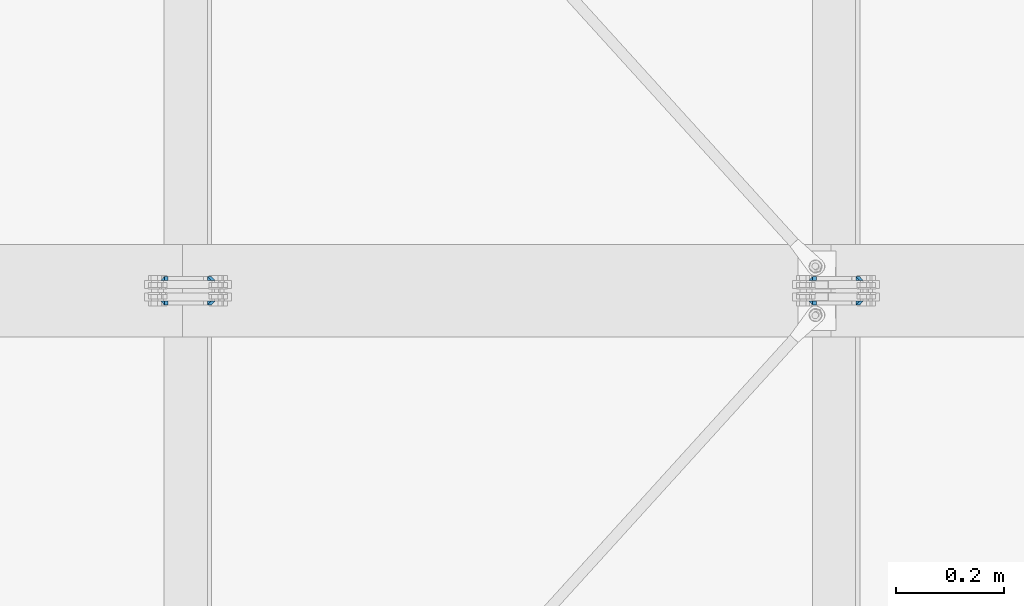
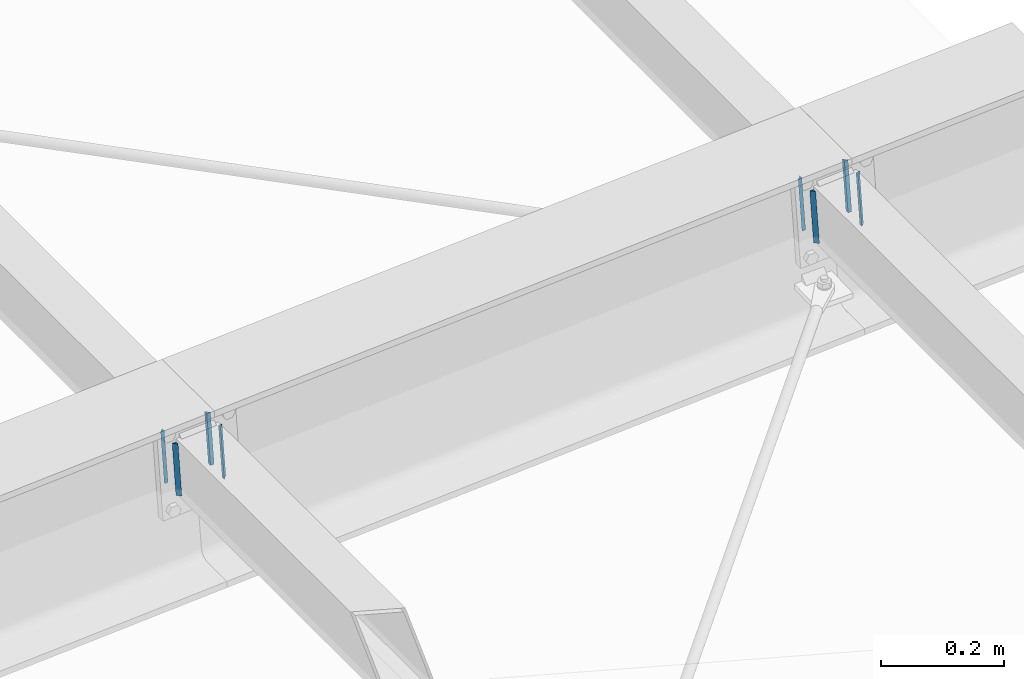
# One storey, part 21 of 72: 16 fasteners.
"""IFC4 building model written with IfcOpenShell, lengths in metres."""

from ifc_helpers import new_model, si_unit, frame, origin_with_axes, place, context, project, spatial, polyline, outline, extrude, type_object, element, save


model = new_model("IFC4")

# Units and contexts
model_context = context("Model", 3, precision=1e-05, world=origin_with_axes())
ifc_project = project(units=[si_unit("LENGTHUNIT", "METRE"), si_unit("AREAUNIT", "SQUARE_METRE"), si_unit("VOLUMEUNIT", "CUBIC_METRE"), si_unit("MASSUNIT", "GRAM", prefix="KILO"), si_unit("TIMEUNIT", "SECOND"), si_unit("PLANEANGLEUNIT", "RADIAN"), si_unit("SOLIDANGLEUNIT", "STERADIAN"), si_unit("THERMODYNAMICTEMPERATUREUNIT", "DEGREE_CELSIUS")], contexts=[model_context])

# Site, building, storey
placement_1 = place(None, origin_with_axes())
site = spatial("IfcSite", under=ifc_project, at=placement_1, Name="Italia", CompositionType="ELEMENT")
building = spatial("IfcBuilding", under=site, at=placement_1, Name="Pensilina", CompositionType="ELEMENT")
storey = spatial("IfcBuildingStorey", under=building, at=placement_1, Name="Storey 0", CompositionType="ELEMENT", Elevation=0.0)

# Fasteners
fastener_type_1 = type_object("IfcFastenerType", Name="Collegamento 0504_0503", PredefinedType="WELD")
placement_2 = place(placement_1, origin_with_axes())
fastener_1_placement = place(placement_2, origin_with_axes())
element("IfcFastener", 1, at=fastener_1_placement, inside=storey, type_object=fastener_type_1, Name="Collegamento 0504_0503", context=model_context, shape_type="SweptSolid", body=[
    extrude(outline(polyline([(0.0, 0.0, 0.0), (-0.00717354, 0.00695801, 0.0), (0.0, 0.00695801, 0.0), (0.0, 0.0, 0.0)])), frame((4.56223, 15.8211, 3.9931), z_axis=(0.067318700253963, 0.0, -0.997731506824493), x_axis=(0.0, 1.0, 0.0)), (0.0, 0.0, 1.0), 0.1061),
])
fastener_type_2 = type_object("IfcFastenerType", Name="Collegamento 0504_0503", PredefinedType="WELD")
fastener_2_placement = place(placement_2, origin_with_axes())
element("IfcFastener", 2, at=fastener_2_placement, inside=storey, type_object=fastener_type_2, Name="Collegamento 0504_0503", context=model_context, shape_type="SweptSolid", body=[
    extrude(outline(polyline([(0.0, 0.0, 0.0), (0.00717354, -0.00695801, 0.0), (0.0, -0.00695801, 0.0), (0.0, 0.0, 0.0)])), frame((4.66298, 15.8211, 3.89356), z_axis=(-0.067318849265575, 0.0, 0.997731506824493), x_axis=(0.0, -1.0, 0.0)), (0.0, 0.0, 1.0), 0.1061),
])
fastener_type_3 = type_object("IfcFastenerType", Name="Collegamento 0504_0503", PredefinedType="WELD")
fastener_3_placement = place(placement_2, origin_with_axes())
element("IfcFastener", 3, at=fastener_3_placement, inside=storey, type_object=fastener_type_3, Name="Collegamento 0504_0503", context=model_context, shape_type="SweptSolid", body=[
    extrude(outline(polyline([(0.0, 0.0, 0.0), (-0.00717354, 0.00695801, 0.0), (0.0, 0.00695801, 0.0), (0.0, 0.0, 0.0)])), frame((4.56223, 15.8211, 3.9931), z_axis=(0.067318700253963, 0.0, -0.997731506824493), x_axis=(0.0, 1.0, 0.0)), (0.0, 0.0, 1.0), 0.1061),
])
fastener_type_4 = type_object("IfcFastenerType", Name="Collegamento 0504_0503", PredefinedType="WELD")
fastener_4_placement = place(placement_2, origin_with_axes())
element("IfcFastener", 4, at=fastener_4_placement, inside=storey, type_object=fastener_type_4, Name="Collegamento 0504_0503", context=model_context, shape_type="SweptSolid", body=[
    extrude(outline(polyline([(0.0, 0.0, 0.0), (0.00717354, -0.00695801, 0.0), (0.0, -0.00695801, 0.0), (0.0, 0.0, 0.0)])), frame((4.66298, 15.8211, 3.89356), z_axis=(-0.067318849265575, 0.0, 0.997731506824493), x_axis=(0.0, -1.0, 0.0)), (0.0, 0.0, 1.0), 0.1061),
])
fastener_type_5 = type_object("IfcFastenerType", Name="Collegamento 0504_0505", PredefinedType="WELD")
fastener_5_placement = place(placement_2, origin_with_axes())
element("IfcFastener", 5, at=fastener_5_placement, inside=storey, type_object=fastener_type_5, Name="Collegamento 0504_0505", context=model_context, shape_type="SweptSolid", body=[
    extrude(outline(polyline([(0.0, 0.0, 0.0), (-0.00717354, 0.00695801, 0.0), (0.0, 0.00695801, 0.0), (0.0, 0.0, 0.0)])), frame((4.56938, 15.8589, 3.88724), z_axis=(-0.067318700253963, 0.0, 0.997731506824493), x_axis=(0.0, -1.0, 0.0)), (0.0, 0.0, 1.0), 0.1061),
])
fastener_type_6 = type_object("IfcFastenerType", Name="Collegamento 0504_0505", PredefinedType="WELD")
fastener_6_placement = place(placement_2, origin_with_axes())
element("IfcFastener", 6, at=fastener_6_placement, inside=storey, type_object=fastener_type_6, Name="Collegamento 0504_0505", context=model_context, shape_type="SweptSolid", body=[
    extrude(outline(polyline([(0.0, 0.0, 0.0), (0.00717354, -0.00695801, 0.0), (0.0, -0.00695801, 0.0), (0.0, 0.0, 0.0)])), frame((4.65584, 15.8589, 3.99942), z_axis=(0.067318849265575, 0.0, -0.997731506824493), x_axis=(0.0, 1.0, 0.0)), (0.0, 0.0, 1.0), 0.1061),
])
fastener_type_7 = type_object("IfcFastenerType", Name="Collegamento 0504_0505", PredefinedType="WELD")
fastener_7_placement = place(placement_2, origin_with_axes())
element("IfcFastener", 7, at=fastener_7_placement, inside=storey, type_object=fastener_type_7, Name="Collegamento 0504_0505", context=model_context, shape_type="SweptSolid", body=[
    extrude(outline(polyline([(0.0, 0.0, 0.0), (-0.00717354, 0.00695801, 0.0), (0.0, 0.00695801, 0.0), (0.0, 0.0, 0.0)])), frame((4.56938, 15.8589, 3.88724), z_axis=(-0.067318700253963, 0.0, 0.997731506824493), x_axis=(0.0, -1.0, 0.0)), (0.0, 0.0, 1.0), 0.1061),
])
fastener_type_8 = type_object("IfcFastenerType", Name="Collegamento 0504_0505", PredefinedType="WELD")
fastener_8_placement = place(placement_2, origin_with_axes())
element("IfcFastener", 8, at=fastener_8_placement, inside=storey, type_object=fastener_type_8, Name="Collegamento 0504_0505", context=model_context, shape_type="SweptSolid", body=[
    extrude(outline(polyline([(0.0, 0.0, 0.0), (0.00717354, -0.00695801, 0.0), (0.0, -0.00695801, 0.0), (0.0, 0.0, 0.0)])), frame((4.65584, 15.8589, 3.99942), z_axis=(0.067318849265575, 0.0, -0.997731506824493), x_axis=(0.0, 1.0, 0.0)), (0.0, 0.0, 1.0), 0.1061),
])
fastener_type_9 = type_object("IfcFastenerType", Name="Collegamento 0604_0603", PredefinedType="WELD")
fastener_9_placement = place(placement_2, origin_with_axes())
element("IfcFastener", 9, at=fastener_9_placement, inside=storey, type_object=fastener_type_9, Name="Collegamento 0604_0603", context=model_context, shape_type="SweptSolid", body=[
    extrude(outline(polyline([(0.0, 0.0, 0.0), (-0.00717354, 0.00695801, 0.0), (0.0, 0.00695801, 0.0), (0.0, 0.0, 0.0)])), frame((5.75944, 15.8211, 4.07535), z_axis=(0.067314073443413, 0.0, -0.997731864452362), x_axis=(0.0, 1.0, 0.0)), (0.0, 0.0, 1.0), 0.106101),
])
fastener_type_10 = type_object("IfcFastenerType", Name="Collegamento 0604_0603", PredefinedType="WELD")
fastener_10_placement = place(placement_2, origin_with_axes())
element("IfcFastener", 10, at=fastener_10_placement, inside=storey, type_object=fastener_type_10, Name="Collegamento 0604_0603", context=model_context, shape_type="SweptSolid", body=[
    extrude(outline(polyline([(0.0, 0.0, 0.0), (0.00717354, -0.00695801, 0.0), (0.0, -0.00695801, 0.0), (0.0, 0.0, 0.0)])), frame((5.86019, 15.8211, 3.97581), z_axis=(-0.067318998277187, 0.0, 0.997731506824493), x_axis=(0.0, -1.0, 0.0)), (0.0, 0.0, 1.0), 0.1061),
])
fastener_type_11 = type_object("IfcFastenerType", Name="Collegamento 0604_0603", PredefinedType="WELD")
fastener_11_placement = place(placement_2, origin_with_axes())
element("IfcFastener", 11, at=fastener_11_placement, inside=storey, type_object=fastener_type_11, Name="Collegamento 0604_0603", context=model_context, shape_type="SweptSolid", body=[
    extrude(outline(polyline([(0.0, 0.0, 0.0), (-0.00717354, 0.00695801, 0.0), (0.0, 0.00695801, 0.0), (0.0, 0.0, 0.0)])), frame((5.75944, 15.8211, 4.07535), z_axis=(0.067314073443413, 0.0, -0.997731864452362), x_axis=(0.0, 1.0, 0.0)), (0.0, 0.0, 1.0), 0.106101),
])
fastener_type_12 = type_object("IfcFastenerType", Name="Collegamento 0604_0603", PredefinedType="WELD")
fastener_12_placement = place(placement_2, origin_with_axes())
element("IfcFastener", 12, at=fastener_12_placement, inside=storey, type_object=fastener_type_12, Name="Collegamento 0604_0603", context=model_context, shape_type="SweptSolid", body=[
    extrude(outline(polyline([(0.0, 0.0, 0.0), (0.00717354, -0.00695801, 0.0), (0.0, -0.00695801, 0.0), (0.0, 0.0, 0.0)])), frame((5.86019, 15.8211, 3.97581), z_axis=(-0.067318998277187, 0.0, 0.997731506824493), x_axis=(0.0, -1.0, 0.0)), (0.0, 0.0, 1.0), 0.1061),
])
fastener_type_13 = type_object("IfcFastenerType", Name="Collegamento 0604_0605", PredefinedType="WELD")
fastener_13_placement = place(placement_2, origin_with_axes())
element("IfcFastener", 13, at=fastener_13_placement, inside=storey, type_object=fastener_type_13, Name="Collegamento 0604_0605", context=model_context, shape_type="SweptSolid", body=[
    extrude(outline(polyline([(0.0, 0.0, 0.0), (-0.00717354, 0.00695801, 0.0), (0.0, 0.00695801, 0.0), (0.0, 0.0, 0.0)])), frame((5.76658, 15.8589, 3.96949), z_axis=(-0.067314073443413, 0.0, 0.997731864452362), x_axis=(0.0, -1.0, 0.0)), (0.0, 0.0, 1.0), 0.106101),
])
fastener_type_14 = type_object("IfcFastenerType", Name="Collegamento 0604_0605", PredefinedType="WELD")
fastener_14_placement = place(placement_2, origin_with_axes())
element("IfcFastener", 14, at=fastener_14_placement, inside=storey, type_object=fastener_type_14, Name="Collegamento 0604_0605", context=model_context, shape_type="SweptSolid", body=[
    extrude(outline(polyline([(0.0, 0.0, 0.0), (0.00717354, -0.00695801, 0.0), (0.0, -0.00695801, 0.0), (0.0, 0.0, 0.0)])), frame((5.85304, 15.8589, 4.08167), z_axis=(0.067318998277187, 0.0, -0.997731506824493), x_axis=(0.0, 1.0, 0.0)), (0.0, 0.0, 1.0), 0.1061),
])
fastener_type_15 = type_object("IfcFastenerType", Name="Collegamento 0604_0605", PredefinedType="WELD")
fastener_15_placement = place(placement_2, origin_with_axes())
element("IfcFastener", 15, at=fastener_15_placement, inside=storey, type_object=fastener_type_15, Name="Collegamento 0604_0605", context=model_context, shape_type="SweptSolid", body=[
    extrude(outline(polyline([(0.0, 0.0, 0.0), (-0.00717354, 0.00695801, 0.0), (0.0, 0.00695801, 0.0), (0.0, 0.0, 0.0)])), frame((5.76658, 15.8589, 3.96949), z_axis=(-0.067314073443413, 0.0, 0.997731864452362), x_axis=(0.0, -1.0, 0.0)), (0.0, 0.0, 1.0), 0.106101),
])
fastener_type_16 = type_object("IfcFastenerType", Name="Collegamento 0604_0605", PredefinedType="WELD")
fastener_16_placement = place(placement_2, origin_with_axes())
element("IfcFastener", 16, at=fastener_16_placement, inside=storey, type_object=fastener_type_16, Name="Collegamento 0604_0605", context=model_context, shape_type="SweptSolid", body=[
    extrude(outline(polyline([(0.0, 0.0, 0.0), (0.00717354, -0.00695801, 0.0), (0.0, -0.00695801, 0.0), (0.0, 0.0, 0.0)])), frame((5.85304, 15.8589, 4.08167), z_axis=(0.067318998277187, 0.0, -0.997731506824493), x_axis=(0.0, 1.0, 0.0)), (0.0, 0.0, 1.0), 0.1061),
])

save(model, "model.ifc")
